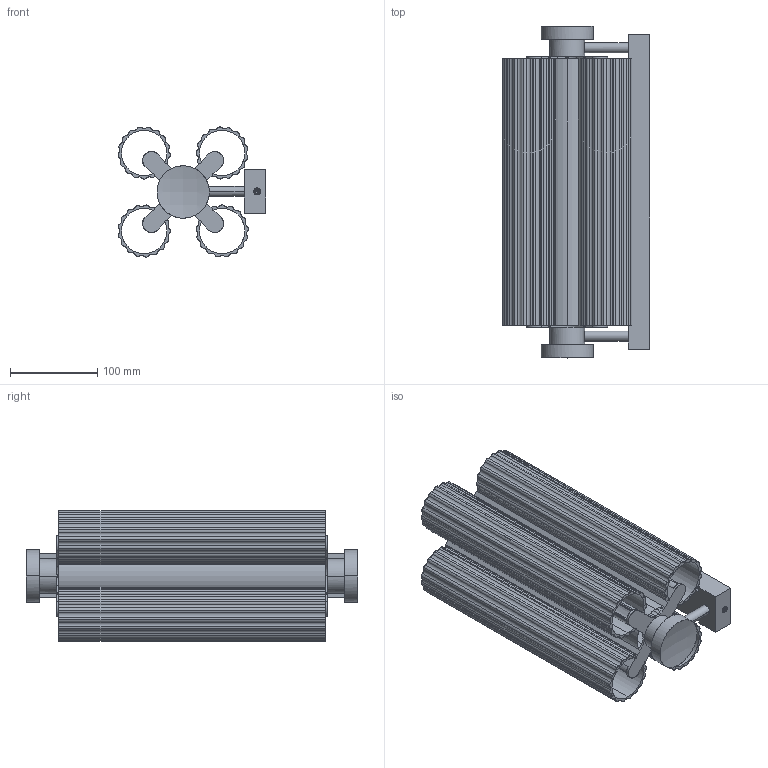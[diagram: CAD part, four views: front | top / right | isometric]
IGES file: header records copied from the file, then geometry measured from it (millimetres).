
Start section: SolidWorks IGES file using analytic representation for surfaces
Global section: file name: \\ARNOLD\compartida\Nueva Coleccion Septiembre 2026\RYST_1369\A1369\3D\RYST_A1359.IGS; native system: SolidWorks 2023; preprocessor: SolidWorks 2023; author: adrian; date: 260828.091855; units: millimetre
Bounding box: 169.66 x 381 x 149.39 mm (x, y, z)
Surface area: 856627.9 mm2 (no closed solid volume)
Topology: 0 solids, 0 shells, 912 faces, 13743 edges, 13737 vertices
Faces by surface type: bspline 622, revolution 290
